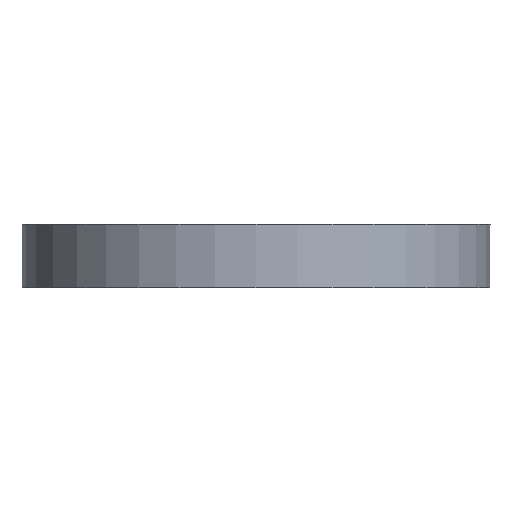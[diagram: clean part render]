
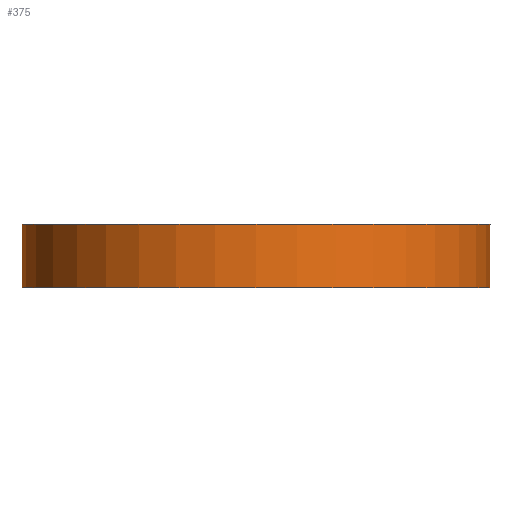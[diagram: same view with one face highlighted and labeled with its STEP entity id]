
A CAD part, front view. The second image highlights one B-rep face of the part: STEP entity #375.
In plain terms, the highlighted cylindrical face has radius 29.5 mm (diameter 59 mm), a partial arc.
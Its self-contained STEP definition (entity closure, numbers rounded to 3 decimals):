
#292=CARTESIAN_POINT('',(0.,12.3,2.1));
#293=DIRECTION('',(0.,0.,-1.));
#294=DIRECTION('',(1.,0.,0.));
#295=AXIS2_PLACEMENT_3D('',#292,#293,#294);
#297=DIRECTION('',(0.,0.,-1.));
#298=VECTOR('',#297,8.);
#299=CARTESIAN_POINT('',(-29.5,12.3,2.1));
#300=LINE('',#299,#298);
#301=CARTESIAN_POINT('',(0.,12.3,-5.9));
#302=DIRECTION('',(0.,0.,1.));
#303=DIRECTION('',(-1.,0.,0.));
#304=AXIS2_PLACEMENT_3D('',#301,#302,#303);
#306=DIRECTION('',(0.,0.,1.));
#307=VECTOR('',#306,8.);
#308=CARTESIAN_POINT('',(29.5,12.3,-5.9));
#309=LINE('',#308,#307);
#344=CARTESIAN_POINT('',(29.5,12.3,2.1));
#346=VERTEX_POINT('',#344);
#350=CARTESIAN_POINT('',(-29.5,12.3,2.1));
#351=VERTEX_POINT('',#350);
#352=CARTESIAN_POINT('',(29.5,12.3,-5.9));
#353=CARTESIAN_POINT('',(-29.5,12.3,-5.9));
#354=VERTEX_POINT('',#352);
#355=VERTEX_POINT('',#353);
#360=CARTESIAN_POINT('',(0.,12.3,
-1.9));
#361=DIRECTION('',(0.,0.,-1.));
#362=DIRECTION('',(1.,0.,0.));
#363=AXIS2_PLACEMENT_3D('',#360,#361,#362);
#364=CYLINDRICAL_SURFACE('',#363,29.5);
#366=ORIENTED_EDGE('',*,*,#365,.T.);
#368=ORIENTED_EDGE('',*,*,#367,.T.);
#370=ORIENTED_EDGE('',*,*,#369,.T.);
#372=ORIENTED_EDGE('',*,*,#371,.T.);
#373=EDGE_LOOP('',(#366,#368,#370,#372));
#374=FACE_OUTER_BOUND('',#373,.F.);
#375=ADVANCED_FACE('',(#374),#364,.F.);
#296=CIRCLE('',#295,29.5);
#305=CIRCLE('',#304,29.5);
#365=EDGE_CURVE('',#346,#351,#296,.T.);
#367=EDGE_CURVE('',#351,#355,#300,.T.);
#369=EDGE_CURVE('',#355,#354,#305,.T.);
#371=EDGE_CURVE('',#354,#346,#309,.T.);
